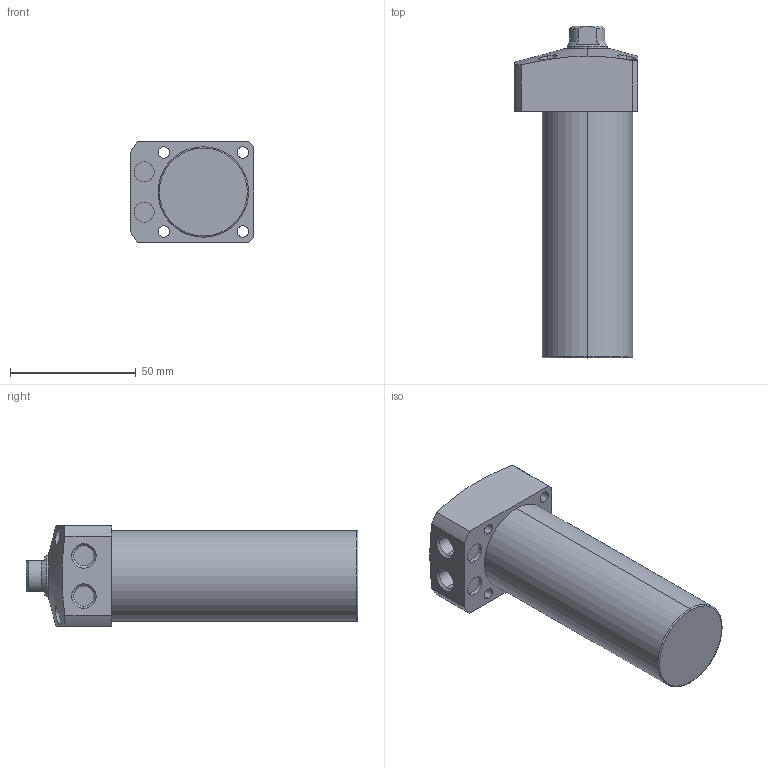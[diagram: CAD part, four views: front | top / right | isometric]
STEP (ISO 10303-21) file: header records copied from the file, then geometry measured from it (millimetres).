
FILE_DESCRIPTION (( 'STEP AP203' ), '1' );
FILE_NAME ('CLL-036CA-075.STEP', '2019-12-20T09:08:30', ( '' ), ( '' ), 'SwSTEP 2.0', 'SolidWorks 2015', '' );
FILE_SCHEMA (( 'CONFIG_CONTROL_DESIGN' ));
Length unit declared in the file: millimetre
Products named in the file (1): CLL-036CA-075
Bounding box: 49 x 132 x 40 mm (x, y, z)
Volume: 141194.3 mm3; surface area: 21259 mm2
Topology: 1 solids, 1 shells, 72 faces, 166 edges, 105 vertices
Faces by surface type: cylinder 34, plane 22, cone 14, torus 2
Entity records: 2453 total; most frequent: CARTESIAN_POINT 708, DIRECTION 364, ORIENTED_EDGE 328, EDGE_CURVE 164, AXIS2_PLACEMENT_3D 151, VERTEX_POINT 105, EDGE_LOOP 91, CIRCLE 78
